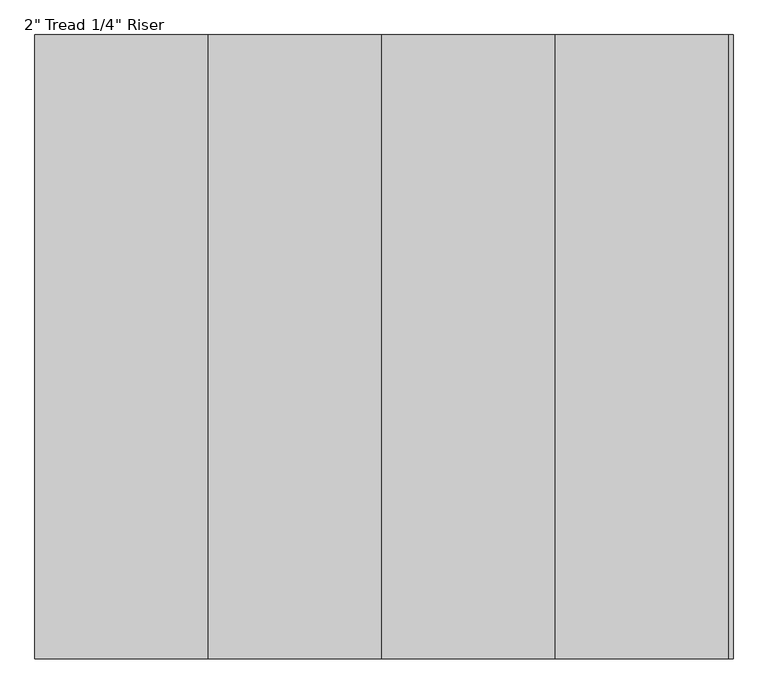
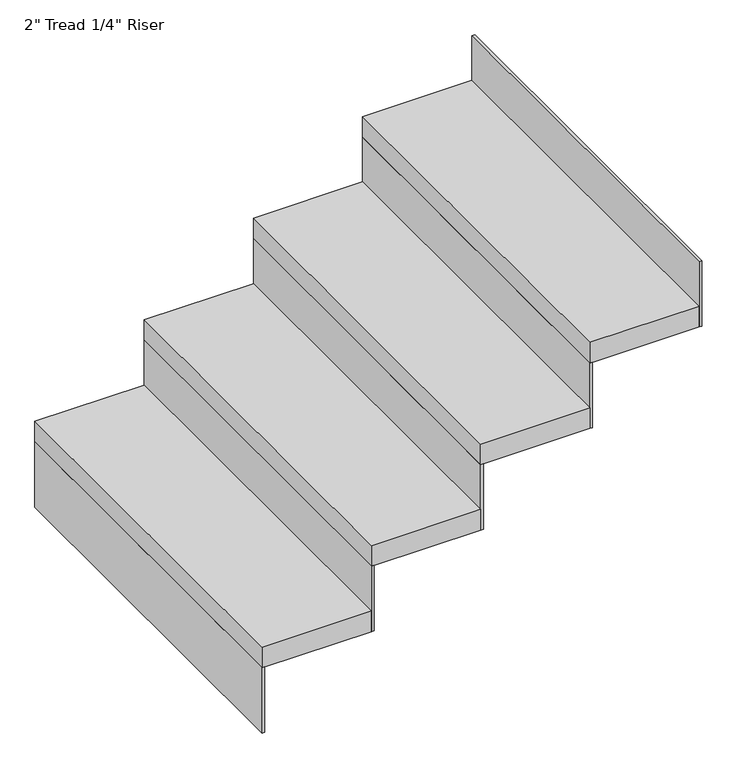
"""IFC4 building model written with IfcOpenShell, lengths in millimetres: stair flight geometry."""

from ifc_helpers import new_model, si_unit, frame, origin, place, context, project, spatial, polyline, outline, extrude, source, transform, mapped, element, save


def stair_flight_1b28ec5c(model_context):
    return source(origin(), model_context, "Body", "SweptSolid", [
        extrude(outline(polyline([(114081.0444894, -35451.4428514), (114074.6944894, -35451.4428514), (114074.6944894, -34537.0428514), (114081.0444894, -34537.0428514), (114081.0444894, -35451.4428514)])), frame((0.0, 0.0, 2195.0947368), z_axis=(0.0, 0.0, 1.0), x_axis=(1.0, 0.0, 0.0)), (0.0, 0.0, 1.0), 160.4210526),
        extrude(outline(polyline([(114328.6944894, -34537.0428514), (114328.6944894, -35451.4428514), (114074.6944894, -35451.4428514), (114074.6944894, -34537.0428514), (114328.6944894, -34537.0428514)])), frame((0.0, 0.0, 2355.5157895), z_axis=(0.0, 0.0, 1.0), x_axis=(1.0, 0.0, 0.0)), (0.0, 0.0, 1.0), 50.8),
        extrude(outline(polyline([(114335.0444894, -35451.4428514), (114328.6944894, -35451.4428514), (114328.6944894, -34537.0428514), (114335.0444894, -34537.0428514), (114335.0444894, -35451.4428514)])), frame((0.0, 0.0, 2355.5157895), z_axis=(0.0, 0.0, 1.0), x_axis=(1.0, 0.0, 0.0)), (0.0, 0.0, 1.0), 160.4210526),
        extrude(outline(polyline([(114582.6944894, -34537.0428514), (114582.6944894, -35451.4428514), (114328.6944894, -35451.4428514), (114328.6944894, -34537.0428514), (114582.6944894, -34537.0428514)])), frame((0.0, 0.0, 2515.9368421), z_axis=(0.0, 0.0, 1.0), x_axis=(1.0, 0.0, 0.0)), (0.0, 0.0, 1.0), 50.8),
        extrude(outline(polyline([(114589.0444894, -35451.4428514), (114582.6944894, -35451.4428514), (114582.6944894, -34537.0428514), (114589.0444894, -34537.0428514), (114589.0444894, -35451.4428514)])), frame((0.0, 0.0, 2515.9368421), z_axis=(0.0, 0.0, 1.0), x_axis=(1.0, 0.0, 0.0)), (0.0, 0.0, 1.0), 160.4210526),
        extrude(outline(polyline([(114836.6944894, -34537.0428514), (114836.6944894, -35451.4428514), (114582.6944894, -35451.4428514), (114582.6944894, -34537.0428514), (114836.6944894, -34537.0428514)])), frame((0.0, 0.0, 2676.3578947), z_axis=(0.0, 0.0, 1.0), x_axis=(1.0, 0.0, 0.0)), (0.0, 0.0, 1.0), 50.8),
        extrude(outline(polyline([(114843.0444894, -35451.4428514), (114836.6944894, -35451.4428514), (114836.6944894, -34537.0428514), (114843.0444894, -34537.0428514), (114843.0444894, -35451.4428514)])), frame((0.0, 0.0, 2676.3578947), z_axis=(0.0, 0.0, 1.0), x_axis=(1.0, 0.0, 0.0)), (0.0, 0.0, 1.0), 160.4210526),
        extrude(outline(polyline([(115097.0444894, -35451.4428514), (115090.6944894, -35451.4428514), (115090.6944894, -34537.0428514), (115097.0444894, -34537.0428514), (115097.0444894, -35451.4428514)])), frame((0.0, 0.0, 2836.7789474), z_axis=(0.0, 0.0, 1.0), x_axis=(1.0, 0.0, 0.0)), (0.0, 0.0, 1.0), 160.4210526),
        extrude(outline(polyline([(115090.6944894, -34537.0428514), (115090.6944894, -35451.4428514), (114836.6944894, -35451.4428514), (114836.6944894, -34537.0428514), (115090.6944894, -34537.0428514)])), frame((0.0, 0.0, 2836.7789474), z_axis=(0.0, 0.0, 1.0), x_axis=(1.0, 0.0, 0.0)), (0.0, 0.0, 1.0), 50.8),
    ])


if __name__ == "__main__":
    model = new_model("IFC4")
    model_context = context("Model", 3, world=origin())
    ifc_project = project(units=[si_unit("LENGTHUNIT", "METRE", prefix="MILLI")], contexts=[model_context])
    site = spatial("IfcSite", under=ifc_project)
    building = spatial("IfcBuilding", under=site)
    placement = place(None, origin())
    stair_flight_shape = stair_flight_1b28ec5c(model_context)
    element("IfcStairFlight", 1, ObjectType="2\" Tread 1/4\" Riser", at=placement, inside=building, context=model_context, shape_type="MappedRepresentation", body=[
        mapped(stair_flight_shape, transform((0.0, 0.0, 0.0), x_axis=(1.0, 0.0, 0.0), y_axis=(0.0, 1.0, 0.0), z_axis=(0.0, 0.0, 1.0))),
    ])
    save(model, "model.ifc")
